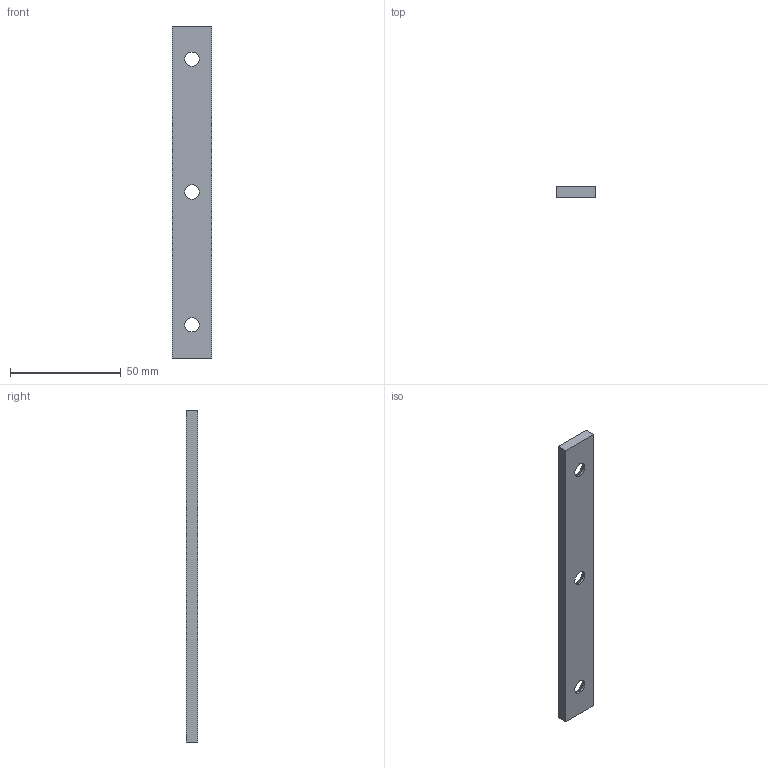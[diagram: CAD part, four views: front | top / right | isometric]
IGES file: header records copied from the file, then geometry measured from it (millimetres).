
Start section: Data from Parasolid IGES Translator 20.0.26, Copyright(c) 2006 Siemens P LM Software. All Rights Reserved.
Global section: file name: P605-01-018-150.igs; native system: By Siemens PLM Incorporated; preprocessor: XPlus GENERIC/IGES 20.0.26; author: Noname; organization: Noname; date: 20190705.145508; units: millimetre
Bounding box: 18 x 5 x 150 mm (x, y, z)
Surface area: 7106.1 mm2 (no closed solid volume)
Topology: 0 solids, 0 shells, 12 faces, 54 edges, 50 vertices
Faces by surface type: extrusion 6, revolution 6
